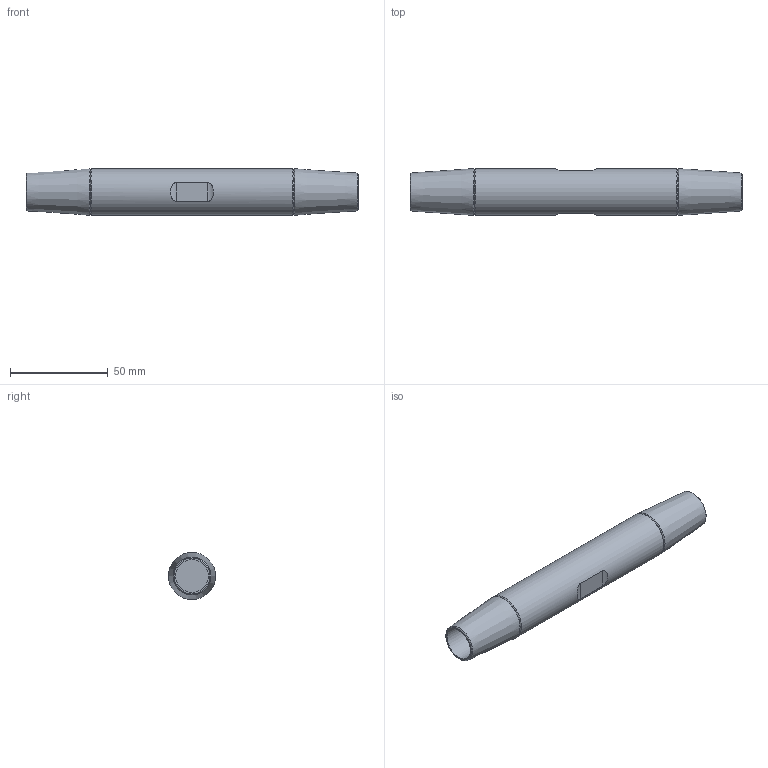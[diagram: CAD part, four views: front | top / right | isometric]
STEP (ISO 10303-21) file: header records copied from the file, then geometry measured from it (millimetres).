
FILE_DESCRIPTION(/* description */ (''),/* implementation_level */ '2;1');
FILE_NAME(/* name */ 'G:\Engineering\700 CAD\Internet-PX-1-step-igs-dxf\520-MUF-Arbeitsdateien\520-016-MUF.stp',/* time_stamp */ '2020-06-30T13:12:16+02:00',/* author */ ('schwarz'),/* organization */ (''),/* preprocessor_version */ 'ST-DEVELOPER v16.1',/* originating_system */ 'Autodesk Inventor 2016',/* authorisation */ '');
FILE_SCHEMA (('AUTOMOTIVE_DESIGN { 1 0 10303 214 3 1 1 }'));
Length unit declared in the file: centimetre
Products named in the file (1): Zusammenbau Muffe 520 016 Kunde
Bounding box: 170 x 24 x 24 mm (x, y, z)
Volume: 60143.7 mm3; surface area: 15594.4 mm2
Topology: 1 solids, 1 shells, 21 faces, 43 edges, 27 vertices
Faces by surface type: cone 8, cylinder 7, plane 6
Full cylindrical faces by diameter (mm): 16.8 x2, 24 x1
Entity records: 613 total; most frequent: CARTESIAN_POINT 166, DIRECTION 80, ORIENTED_EDGE 60, EDGE_LOOP 36, AXIS2_PLACEMENT_3D 36, EDGE_CURVE 30, VERTEX_POINT 26, STYLED_ITEM 22
